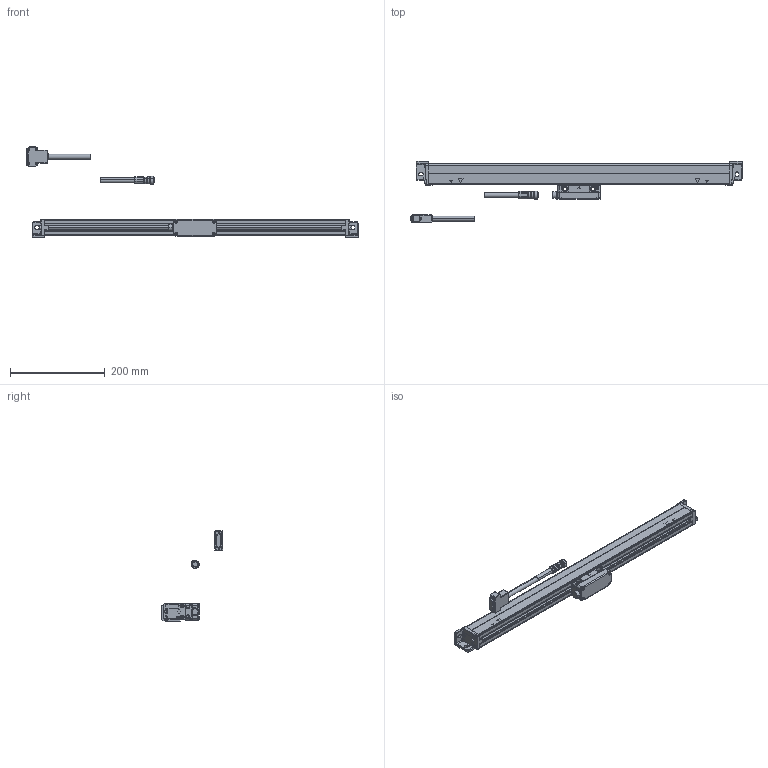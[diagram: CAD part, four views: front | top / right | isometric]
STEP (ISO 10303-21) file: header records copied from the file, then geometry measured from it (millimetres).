
FILE_DESCRIPTION(('Creo Elements/Direct Modeling STEP Export'),'2;1');
FILE_NAME('AT103_AT203-500.stp','2018-01-05T14:03:32',(''),(''),'Creo Elements/Direct Modeling STEP processor for AP214 (Solid Model)','Creo Elements/Direct Modeling 18.1B 29-Sep-2012 (C) Parametric Technology GmbH','');
FILE_SCHEMA(('AUTOMOTIVE_DESIGN { 1 0 10303 214 1 1 1 1 }'));
Length unit declared in the file: millimetre
Products named in the file (5): Scale_500; Cable; Cable.1; DetectorHead; AT103_203-500
Assembly tree (4 placements, depth 2):
  AT103_203-500
    DetectorHead
    Cable.1
    Cable
    Scale_500
Bounding box: 700.83 x 129 x 190.1 mm (x, y, z)
Volume: 1120628.8 mm3; surface area: 165516.3 mm2
Topology: 4 solids, 8 shells, 1072 faces, 2655 edges, 1645 vertices
Faces by surface type: plane 603, cylinder 290, cone 80, torus 58, sphere 16, extrusion 16, bspline 5, revolution 4
Entity records: 33826 total; most frequent: CARTESIAN_POINT 6553, ORIENTED_EDGE 5276, DIRECTION 5000, EDGE_CURVE 2638, AXIS2_PLACEMENT_3D 1684, VERTEX_POINT 1645, VECTOR 1626, LINE 1620
